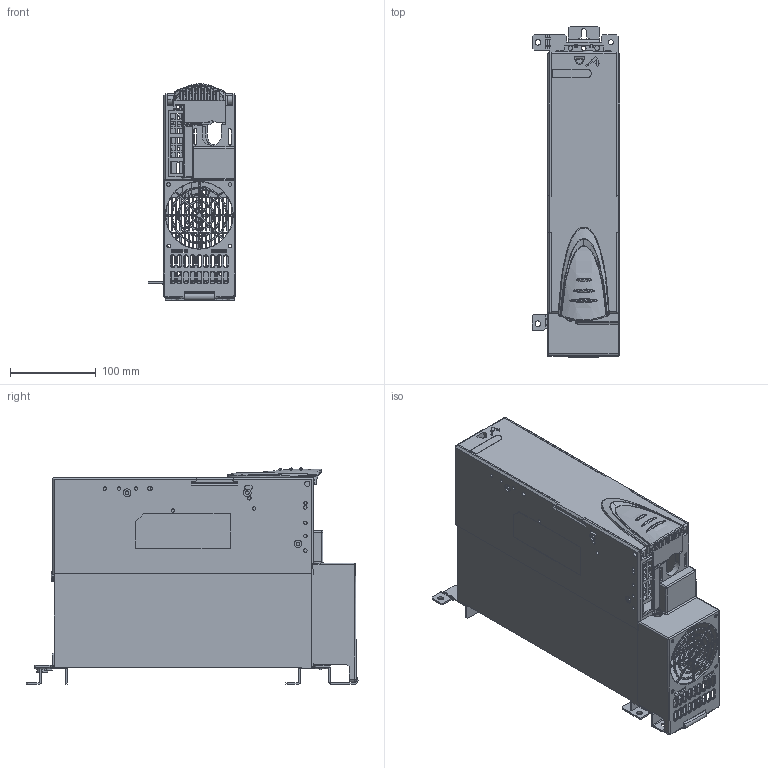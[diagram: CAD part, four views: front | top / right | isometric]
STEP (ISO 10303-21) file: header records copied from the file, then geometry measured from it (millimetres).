
FILE_DESCRIPTION((''),'2;1');
FILE_NAME('E-POWER_250A_IGES2','2012-01-23T',('chrisloe'),(''),'PRO/ENGINEER BY PARAMETRIC TECHNOLOGY CORPORATION, 2010180','PRO/ENGINEER BY PARAMETRIC TECHNOLOGY CORPORATION, 2010180','');
FILE_SCHEMA(('CONFIG_CONTROL_DESIGN'));
Products named in the file (1): E-POWER_250A_IGES2
Bounding box: 102 x 386.67 x 252.22 mm (x, y, z)
Volume: 1835070.8 mm3; surface area: 1409054.9 mm2
Topology: 1 solids, 8 shells, 3173 faces, 8692 edges, 5459 vertices
Faces by surface type: plane 1999, cylinder 604, cone 224, torus 175, bspline 133, sphere 24, extrusion 14
Entity records: 112384 total; most frequent: CARTESIAN_POINT 32728, ORIENTED_EDGE 17350, DIRECTION 15288, EDGE_CURVE 8675, VECTOR 6192, LINE 6178, VERTEX_POINT 5458, AXIS2_PLACEMENT_3D 4548
